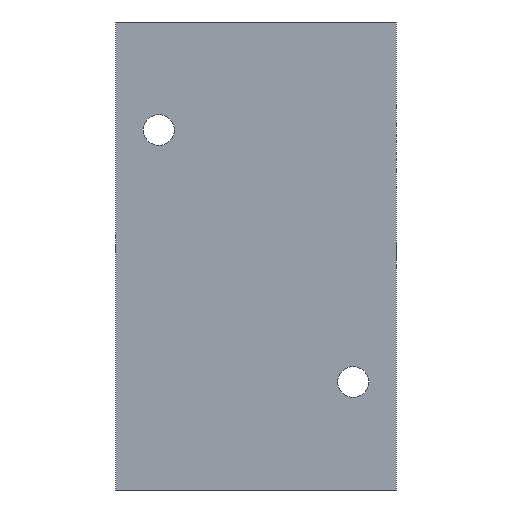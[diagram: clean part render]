
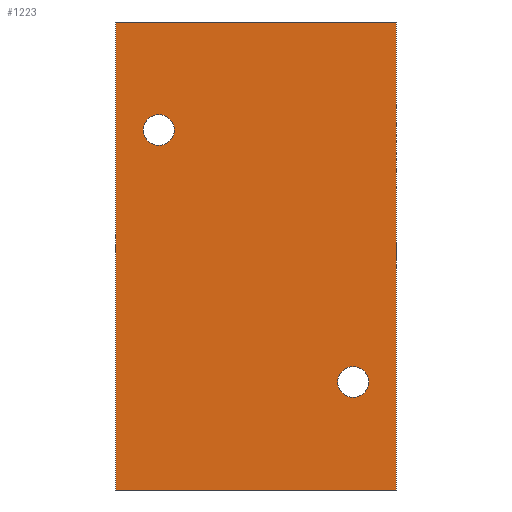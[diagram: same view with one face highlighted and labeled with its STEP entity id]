
A CAD part, front view. The second image highlights one B-rep face of the part: STEP entity #1223.
In plain terms, the highlighted planar face has unit normal (0, -1, 0).
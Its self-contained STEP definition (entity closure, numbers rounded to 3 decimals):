
#41 = CARTESIAN_POINT ( 'NONE',  ( -39., -30., 65. ) ) ;
#97 = CARTESIAN_POINT ( 'NONE',  ( 39., -30., -65. ) ) ;
#111 = CARTESIAN_POINT ( 'NONE',  ( -27., -30., 39.3 ) ) ;
#115 = ORIENTED_EDGE ( 'NONE', *, *, #578, .F. ) ;
#128 = CARTESIAN_POINT ( 'NONE',  ( -39., -30., -65. ) ) ;
#150 = VECTOR ( 'NONE', #1500, 1000. ) ;
#197 = DIRECTION ( 'NONE',  ( 0., -1., 0. ) ) ;
#252 = DIRECTION ( 'NONE',  ( 0., -1., 0. ) ) ;
#258 = DIRECTION ( 'NONE',  ( 0., 0., -1. ) ) ;
#302 = ORIENTED_EDGE ( 'NONE', *, *, #1016, .T. ) ;
#353 = EDGE_CURVE ( 'NONE', #490, #1392, #1421, .T. ) ;
#371 = AXIS2_PLACEMENT_3D ( 'NONE', #1354, #441, #692 ) ;
#393 = DIRECTION ( 'NONE',  ( 1., 0., 0. ) ) ;
#397 = EDGE_CURVE ( 'NONE', #1173, #615, #1550, .T. ) ;
#400 = CARTESIAN_POINT ( 'NONE',  ( -39., -30., -65. ) ) ;
#441 = DIRECTION ( 'NONE',  ( 0., -1., 0. ) ) ;
#472 = VERTEX_POINT ( 'NONE', #769 ) ;
#473 = DIRECTION ( 'NONE',  ( 0., 0., -1. ) ) ;
#490 = VERTEX_POINT ( 'NONE', #598 ) ;
#524 = EDGE_CURVE ( 'NONE', #1504, #1033, #1388, .T. ) ;
#527 = EDGE_LOOP ( 'NONE', ( #302, #1636, #1071, #1611 ) ) ;
#532 = EDGE_LOOP ( 'NONE', ( #1564, #115 ) ) ;
#560 = VERTEX_POINT ( 'NONE', #97 ) ;
#578 = EDGE_CURVE ( 'NONE', #615, #1173, #1308, .T. ) ;
#598 = CARTESIAN_POINT ( 'NONE',  ( 27., -30., -30.7 ) ) ;
#615 = VERTEX_POINT ( 'NONE', #111 ) ;
#630 = ORIENTED_EDGE ( 'NONE', *, *, #353, .F. ) ;
#692 = DIRECTION ( 'NONE',  ( 0., 0., -1. ) ) ;
#748 = LINE ( 'NONE', #754, #1652 ) ;
#749 = CIRCLE ( 'NONE', #371, 4.3 ) ;
#753 = CARTESIAN_POINT ( 'NONE',  ( 27., -30., -35. ) ) ;
#754 = CARTESIAN_POINT ( 'NONE',  ( 39., -30., 65. ) ) ;
#755 = CARTESIAN_POINT ( 'NONE',  ( -27., -30., 35. ) ) ;
#764 = DIRECTION ( 'NONE',  ( 0., 0., -1. ) ) ;
#769 = CARTESIAN_POINT ( 'NONE',  ( 39., -30., 65. ) ) ;
#770 = EDGE_CURVE ( 'NONE', #1392, #490, #749, .T. ) ;
#880 = CARTESIAN_POINT ( 'NONE',  ( -39., -30., 65. ) ) ;
#943 = EDGE_CURVE ( 'NONE', #1504, #472, #1270, .T. ) ;
#952 = AXIS2_PLACEMENT_3D ( 'NONE', #1659, #252, #258 ) ;
#969 = CARTESIAN_POINT ( 'NONE',  ( -39., -30., 65. ) ) ;
#1016 = EDGE_CURVE ( 'NONE', #1033, #560, #1235, .T. ) ;
#1033 = VERTEX_POINT ( 'NONE', #128 ) ;
#1055 = FACE_OUTER_BOUND ( 'NONE', #527, .T. ) ;
#1063 = AXIS2_PLACEMENT_3D ( 'NONE', #755, #197, #473 ) ;
#1068 = FACE_BOUND ( 'NONE', #532, .T. ) ;
#1071 = ORIENTED_EDGE ( 'NONE', *, *, #943, .F. ) ;
#1110 = AXIS2_PLACEMENT_3D ( 'NONE', #41, #1187, #1479 ) ;
#1115 = VECTOR ( 'NONE', #393, 1000. ) ;
#1173 = VERTEX_POINT ( 'NONE', #1326 ) ;
#1187 = DIRECTION ( 'NONE',  ( 0., 1., 0. ) ) ;
#1203 = AXIS2_PLACEMENT_3D ( 'NONE', #753, #1291, #1426 ) ;
#1216 = FACE_BOUND ( 'NONE', #1607, .T. ) ;
#1223 = ADVANCED_FACE ( 'NONE', ( #1216, #1068, #1055 ), #1581, .F. ) ;
#1235 = LINE ( 'NONE', #400, #1115 ) ;
#1270 = LINE ( 'NONE', #880, #150 ) ;
#1291 = DIRECTION ( 'NONE',  ( 0., -1., 0. ) ) ;
#1308 = CIRCLE ( 'NONE', #1063, 4.3 ) ;
#1326 = CARTESIAN_POINT ( 'NONE',  ( -27., -30., 30.7 ) ) ;
#1354 = CARTESIAN_POINT ( 'NONE',  ( 27., -30., -35. ) ) ;
#1368 = DIRECTION ( 'NONE',  ( 0., 0., -1. ) ) ;
#1388 = LINE ( 'NONE', #1646, #1396 ) ;
#1392 = VERTEX_POINT ( 'NONE', #1463 ) ;
#1396 = VECTOR ( 'NONE', #1368, 1000. ) ;
#1421 = CIRCLE ( 'NONE', #1203, 4.3 ) ;
#1426 = DIRECTION ( 'NONE',  ( 0., 0., -1. ) ) ;
#1463 = CARTESIAN_POINT ( 'NONE',  ( 27., -30., -39.3 ) ) ;
#1479 = DIRECTION ( 'NONE',  ( 0., 0., 1. ) ) ;
#1500 = DIRECTION ( 'NONE',  ( 1., 0., 0. ) ) ;
#1504 = VERTEX_POINT ( 'NONE', #969 ) ;
#1512 = ORIENTED_EDGE ( 'NONE', *, *, #770, .F. ) ;
#1550 = CIRCLE ( 'NONE', #952, 4.3 ) ;
#1564 = ORIENTED_EDGE ( 'NONE', *, *, #397, .F. ) ;
#1581 = PLANE ( 'NONE',  #1110 ) ;
#1607 = EDGE_LOOP ( 'NONE', ( #1512, #630 ) ) ;
#1611 = ORIENTED_EDGE ( 'NONE', *, *, #524, .T. ) ;
#1624 = EDGE_CURVE ( 'NONE', #472, #560, #748, .T. ) ;
#1636 = ORIENTED_EDGE ( 'NONE', *, *, #1624, .F. ) ;
#1646 = CARTESIAN_POINT ( 'NONE',  ( -39., -30., 65. ) ) ;
#1652 = VECTOR ( 'NONE', #764, 1000. ) ;
#1659 = CARTESIAN_POINT ( 'NONE',  ( -27., -30., 35. ) ) ;
